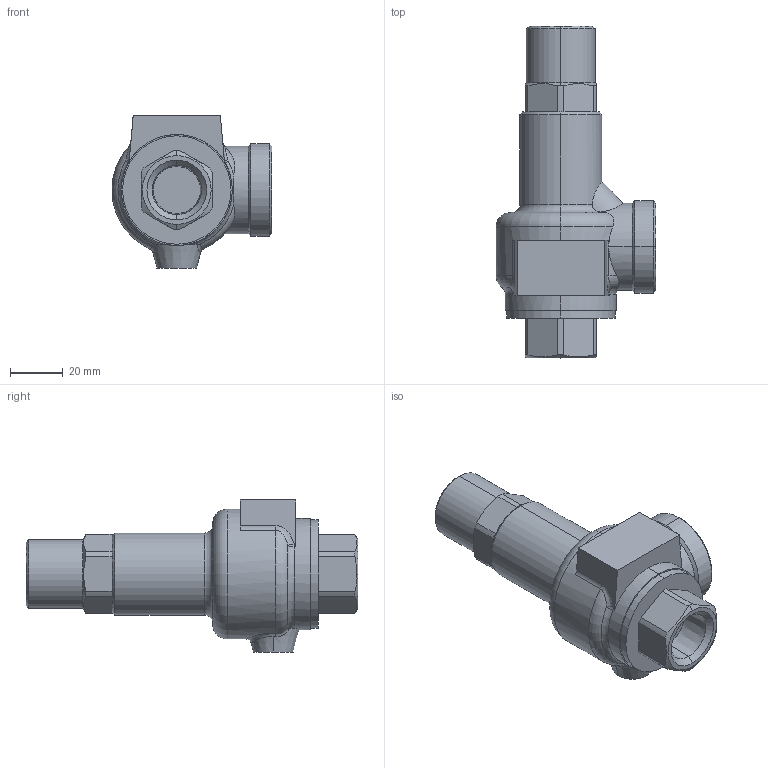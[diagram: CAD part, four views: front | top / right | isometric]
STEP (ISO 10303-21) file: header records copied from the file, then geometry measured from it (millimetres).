
FILE_DESCRIPTION (( 'STEP AP203' ), '1' );
FILE_NAME ('AL-150H 15A.STEP', '2026-01-13T00:48:14', ( '' ), ( '' ), 'SwSTEP 2.0', 'SolidWorks 2024', '' );
FILE_SCHEMA (( 'CONFIG_CONTROL_DESIGN' ));
Length unit declared in the file: millimetre
Products named in the file (1): AL-150H 15A
Bounding box: 60.5 x 125.5 x 57.5 mm (x, y, z)
Volume: 134644 mm3; surface area: 20719.3 mm2
Topology: 1 solids, 1 shells, 115 faces, 283 edges, 174 vertices
Faces by surface type: plane 40, cylinder 35, cone 22, torus 11, bspline 5, sphere 2
Entity records: 4375 total; most frequent: CARTESIAN_POINT 1600, DIRECTION 581, ORIENTED_EDGE 566, EDGE_CURVE 283, AXIS2_PLACEMENT_3D 237, VERTEX_POINT 174, CIRCLE 126, EDGE_LOOP 119
